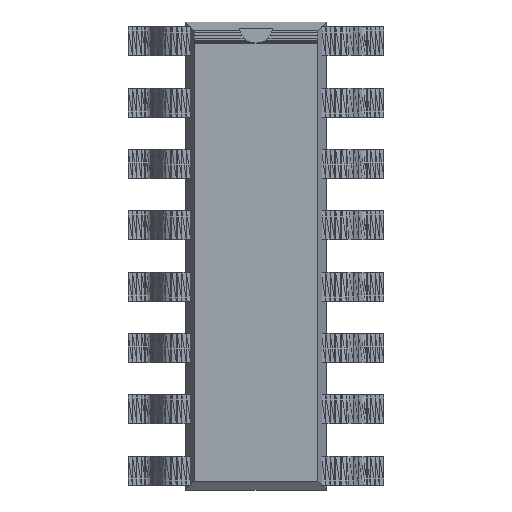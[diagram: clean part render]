
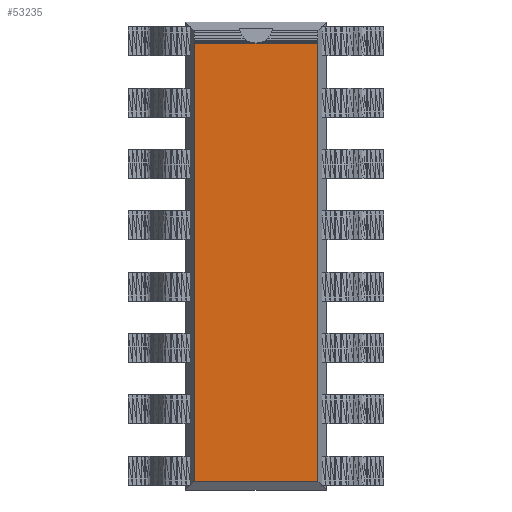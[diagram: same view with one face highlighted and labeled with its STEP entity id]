
A CAD part, top view. The second image highlights one B-rep face of the part: STEP entity #53235.
In plain terms, the highlighted planar face has unit normal (0, 0, 1).
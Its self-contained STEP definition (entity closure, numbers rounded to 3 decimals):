
#52310 = CARTESIAN_POINT('',(-1.283,-4.67,1.28));
#52311 = VERTEX_POINT('',#52310);
#52312 = CARTESIAN_POINT('',(-1.283,4.408,1.28));
#52313 = VERTEX_POINT('',#52312);
#52337 = DIRECTION('',(0.,1.,0.));
#52338 = VECTOR('',#52337,1.);
#52339 = LINE('',#52310,#52338);
#52340 = EDGE_CURVE('',#52311,#52313,#52339,.T.);
#52399 = CARTESIAN_POINT('',(1.283,4.408,1.28));
#52400 = VERTEX_POINT('',#52399);
#52401 = CARTESIAN_POINT('',(1.283,-4.67,1.28));
#52402 = VERTEX_POINT('',#52401);
#52444 = DIRECTION('',(0.,1.,0.));
#52445 = VECTOR('',#52444,1.);
#52446 = LINE('',#52401,#52445);
#52447 = EDGE_CURVE('',#52402,#52400,#52446,.T.);
#52463 = DIRECTION('',(1.,0.,0.));
#52464 = VECTOR('',#52463,1.);
#52465 = LINE('',#52310,#52464);
#52466 = EDGE_CURVE('',#52311,#52402,#52465,.T.);
#52721 = CARTESIAN_POINT('',(0.,4.408,1.28));
#52722 = VERTEX_POINT('',#52721);
#53192 = DIRECTION('',(1.,0.,0.));
#53193 = VECTOR('',#53192,1.);
#53194 = LINE('',#52721,#53193);
#53195 = EDGE_CURVE('',#52722,#52400,#53194,.T.);
#53208 = DIRECTION('',(1.,0.,0.));
#53209 = VECTOR('',#53208,1.);
#53210 = LINE('',#52312,#53209);
#53211 = EDGE_CURVE('',#52313,#52722,#53210,.T.);
#53223 = ORIENTED_EDGE('',*,*,#52340,.F.);
#53224 = ORIENTED_EDGE('',*,*,#52466,.T.);
#53225 = ORIENTED_EDGE('',*,*,#52447,.T.);
#53226 = ORIENTED_EDGE('',*,*,#53195,.F.);
#53227 = ORIENTED_EDGE('',*,*,#53211,.F.);
#53228 = CARTESIAN_POINT('',(-1.283,4.408,1.28));
#53229 = DIRECTION('',(0.,0.,1.));
#53230 = DIRECTION('',(0.,-1.,0.));
#53231 = AXIS2_PLACEMENT_3D('',#53228,#53229,#53230);
#53232 = PLANE('',#53231);
#53233 = EDGE_LOOP('',(#53223,#53224,#53225,#53226,#53227));
#53234 = FACE_OUTER_BOUND('',#53233,.T.);
#53235 = ADVANCED_FACE('',(#53234),#53232,.T.);
